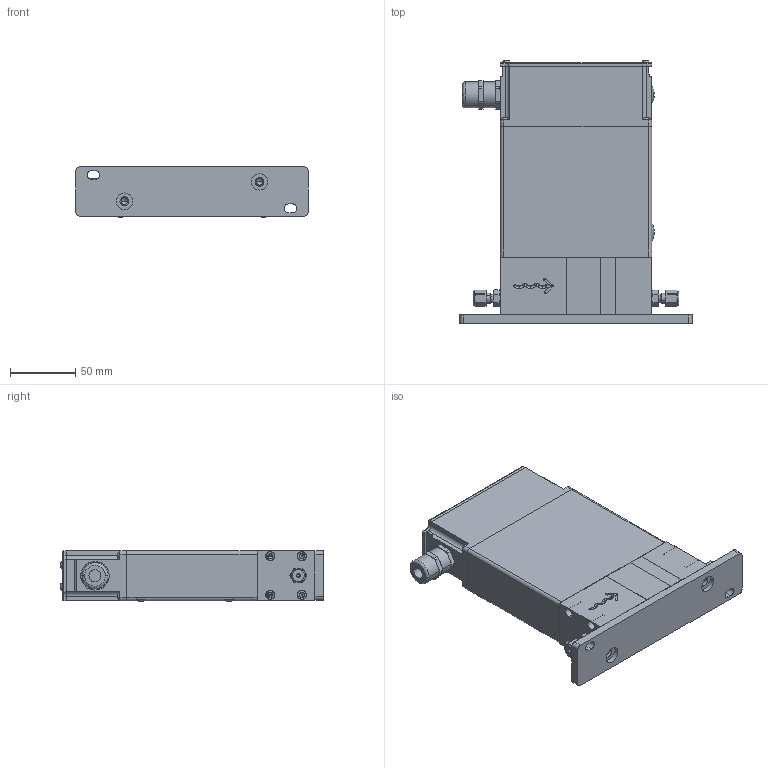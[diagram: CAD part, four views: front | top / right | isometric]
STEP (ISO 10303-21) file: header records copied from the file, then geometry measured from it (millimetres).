
FILE_DESCRIPTION (( 'STEP AP203' ), '1' );
FILE_NAME ('QMC-C-B-C-1D-3-A.STEP', '2025-01-20T16:16:51', ( '' ), ( '' ), 'SwSTEP 2.0', 'SolidWorks 2023', '' );
FILE_SCHEMA (( 'CONFIG_CONTROL_DESIGN' ));
Products named in the file (1): QMC-C-B-C-1D-3-A
Bounding box: 177.8 x 201.07 x 38.46 mm (x, y, z)
Volume: 476938.4 mm3; surface area: 208088.8 mm2
Topology: 44 solids, 44 shells, 2595 faces, 6368 edges, 3924 vertices
Faces by surface type: cylinder 1220, plane 544, cone 428, torus 344, bspline 42, sphere 17
Entity records: 90117 total; most frequent: CARTESIAN_POINT 30573, DIRECTION 12771, ORIENTED_EDGE 12534, EDGE_CURVE 6267, AXIS2_PLACEMENT_3D 5252, VERTEX_POINT 3910, EDGE_LOOP 2883, CIRCLE 2698
